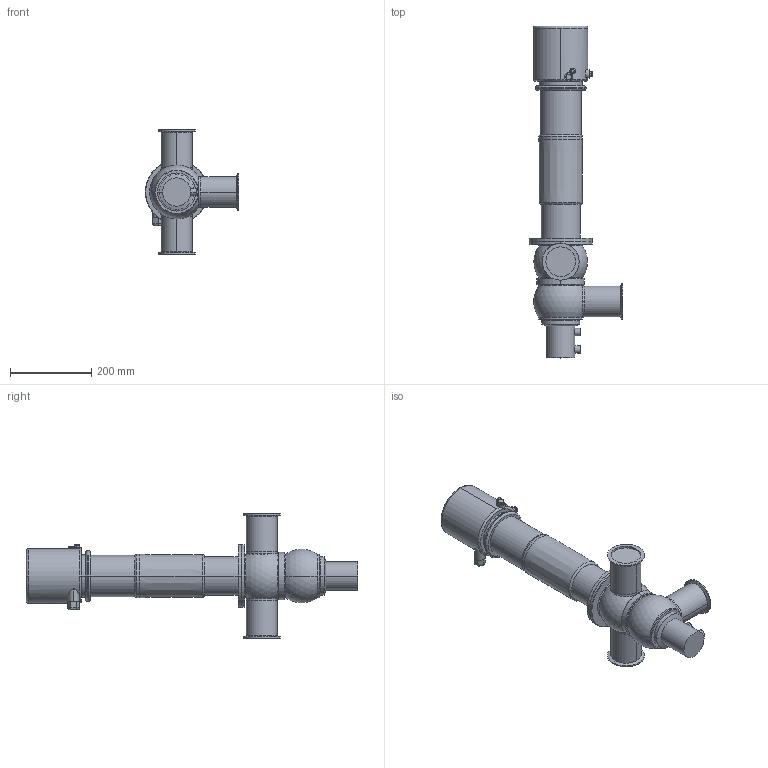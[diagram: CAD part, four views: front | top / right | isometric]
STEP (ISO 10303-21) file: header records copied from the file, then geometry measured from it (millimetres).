
FILE_DESCRIPTION(('Creo Elements/Direct Modeling STEP Export'),'2;1');
FILE_NAME('D42-3T-CL-CU4.stp','2020-04-09T10:21:43',(''),(''),'Creo Elements/Direct Modeling STEP processor for AP214 (Solid Model)','Creo Elements/Direct Modeling 19.0F 14-Feb-2017 (C) Parametric Technology GmbH','');
FILE_SCHEMA(('AUTOMOTIVE_DESIGN { 1 0 10303 214 1 1 1 1 }'));
Length unit declared in the file: millimetre
Products named in the file (5): CU41-D4; drain_pipe-62; actuator_D4-100_yoke; housing_D42-3T-CL; D42-3T-CL-CU4
Assembly tree (4 placements, depth 2):
  D42-3T-CL-CU4
    housing_D42-3T-CL
    actuator_D4-100_yoke
    drain_pipe-62
    CU41-D4
Bounding box: 230.5 x 818.5 x 306 mm (x, y, z)
Volume: 9406380.4 mm3; surface area: 510510.3 mm2
Topology: 4 solids, 4 shells, 256 faces, 599 edges, 378 vertices
Faces by surface type: cylinder 102, plane 61, torus 40, extrusion 33, cone 16, sphere 4
Entity records: 11166 total; most frequent: CARTESIAN_POINT 5675, ORIENTED_EDGE 1198, DIRECTION 1006, EDGE_CURVE 599, AXIS2_PLACEMENT_3D 397, VERTEX_POINT 378, EDGE_LOOP 283, FACE_OUTER_BOUND 256
